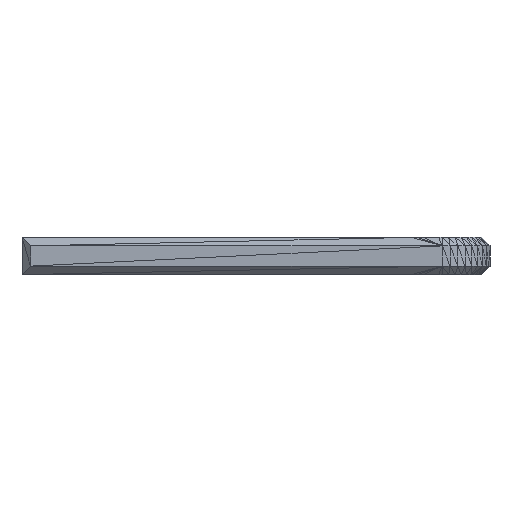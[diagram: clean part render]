
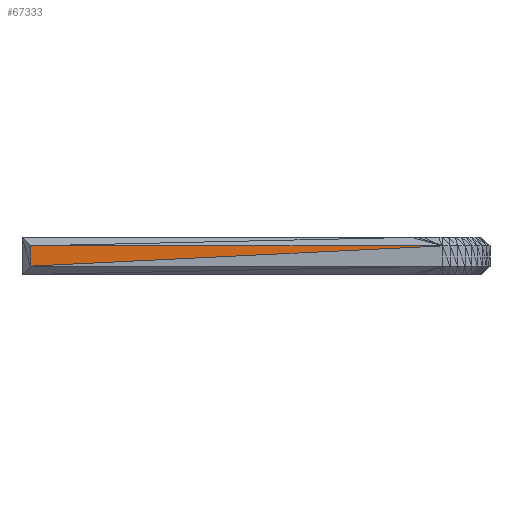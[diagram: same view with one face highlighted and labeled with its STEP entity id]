
A CAD part, left-side view. The second image highlights one B-rep face of the part: STEP entity #67333.
In plain terms, the highlighted planar face has unit normal (-1, 0, 0).
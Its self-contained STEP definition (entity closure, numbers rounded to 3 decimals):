
#5613=FACE_OUTER_BOUND('',#11227,.T.);
#11227=EDGE_LOOP('',(#56073,#56074,#56075));
#15125=LINE('',#100389,#23546);
#15133=LINE('',#100404,#23554);
#19654=LINE('',#109412,#28075);
#23546=VECTOR('',#81955,10.);
#23554=VECTOR('',#81973,10.);
#28075=VECTOR('',#92588,10.);
#29383=VERTEX_POINT('',#100256);
#29411=VERTEX_POINT('',#100373);
#29415=VERTEX_POINT('',#100387);
#34740=EDGE_CURVE('',#29383,#29415,#15125,.T.);
#34748=EDGE_CURVE('',#29411,#29415,#15133,.T.);
#39269=EDGE_CURVE('',#29383,#29411,#19654,.T.);
#56073=ORIENTED_EDGE('',*,*,#39269,.F.);
#56074=ORIENTED_EDGE('',*,*,#34740,.T.);
#56075=ORIENTED_EDGE('',*,*,#34748,.F.);
#61719=PLANE('',#72961);
#67333=ADVANCED_FACE('',(#5613),#61719,.T.);
#72961=AXIS2_PLACEMENT_3D('',#109411,#92586,#92587);
#81955=DIRECTION('',(0.,1.,0.));
#81973=DIRECTION('',(0.,0.,1.));
#92586=DIRECTION('center_axis',(-1.,0.,0.));
#92587=DIRECTION('ref_axis',(0.,0.,1.));
#92588=DIRECTION('',(0.,0.999,-0.049));
#100256=CARTESIAN_POINT('',(0.,225.,135.));
#100373=CARTESIAN_POINT('',(0.,2160.,40.));
#100387=CARTESIAN_POINT('',(0.,2160.,135.));
#100389=CARTESIAN_POINT('',(0.,225.,135.));
#100404=CARTESIAN_POINT('',(0.,2160.,40.));
#109411=CARTESIAN_POINT('Origin',(0.,2160.,135.));
#109412=CARTESIAN_POINT('',(0.,225.,135.));
